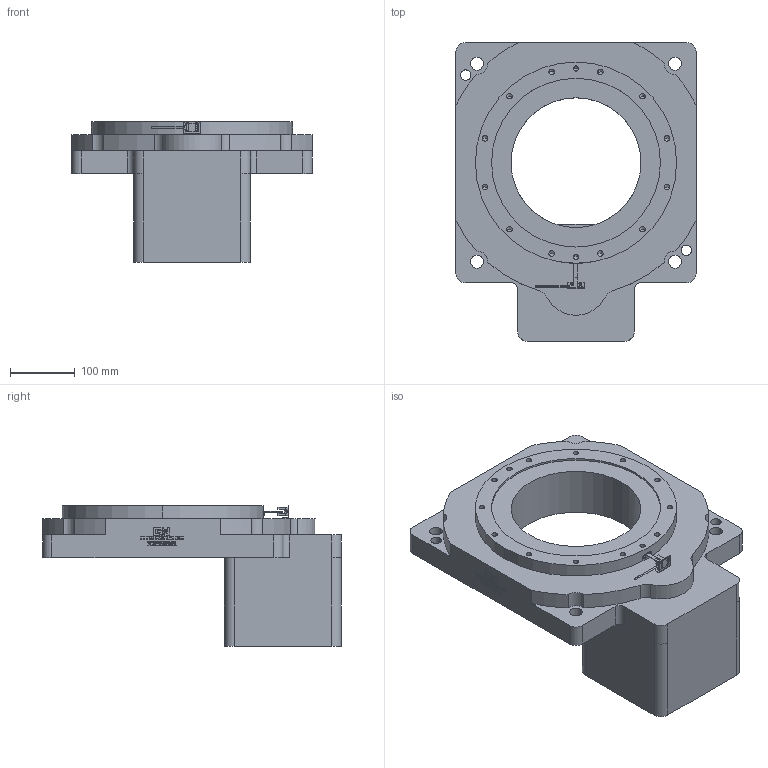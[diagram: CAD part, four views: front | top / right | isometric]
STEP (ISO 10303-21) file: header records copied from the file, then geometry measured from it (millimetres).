
FILE_DESCRIPTION (( 'STEP AP214' ), '1' );
FILE_NAME ('GT370-C-10-40-130-165-M12-2.STEP', '2024-07-05T03:40:40', ( '' ), ( '' ), 'SwSTEP 2.0', 'SolidWorks 2021', '' );
FILE_SCHEMA (( 'AUTOMOTIVE_DESIGN' ));
Length unit declared in the file: millimetre
Products named in the file (1): GT370-C-10-40-130-165-M12-2
Bounding box: 370 x 460 x 217 mm (x, y, z)
Volume: 11404036.7 mm3; surface area: 541379.8 mm2
Topology: 4 solids, 6 shells, 781 faces, 2124 edges, 1382 vertices
Faces by surface type: plane 533, cylinder 131, bspline 77, cone 40
Entity records: 28052 total; most frequent: CARTESIAN_POINT 5633, ORIENTED_EDGE 4168, DIRECTION 3578, EDGE_CURVE 2084, LINE 1644, VECTOR 1644, VERTEX_POINT 1382, AXIS2_PLACEMENT_3D 967
